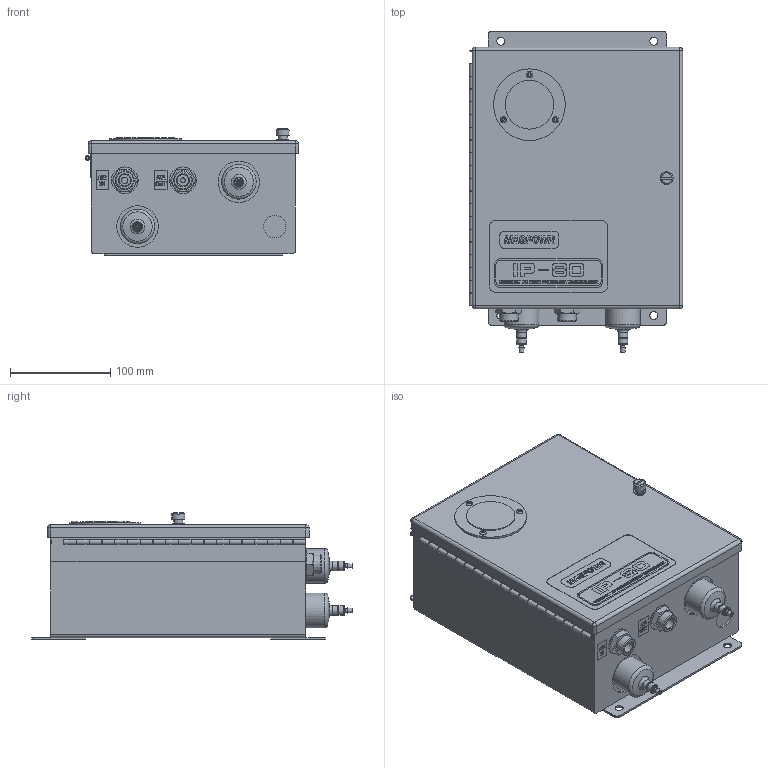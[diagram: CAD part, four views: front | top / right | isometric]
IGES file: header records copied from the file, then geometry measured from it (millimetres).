
Global section: file name: No Iges File Name specified; native system: Autodesk Inventor 2012; preprocessor: AutoDesk Inventor Iges Exporter R2012; author: lzuniga; date: 20121025.103809; units: inch
Bounding box: 212.23 x 319.4 x 126.49 mm (x, y, z)
Volume: 5934753.2 mm3; surface area: 241292.3 mm2
Topology: 1 solids, 1 shells, 1088 faces, 2759 edges, 1820 vertices
Faces by surface type: plane 698, bspline 221, cylinder 95, revolution 47, cone 12, torus 11, sphere 4
Full cylindrical faces by diameter (mm): 2.642 x19, 4.064 x2, 4.762 x20, 6.35 x3, 8.636 x1, 8.89 x2, 9.525 x4, 11.684 x1, 12.7 x1, 26.568 x2, 34.417 x2, 48.514 x1, 71.374 x1
